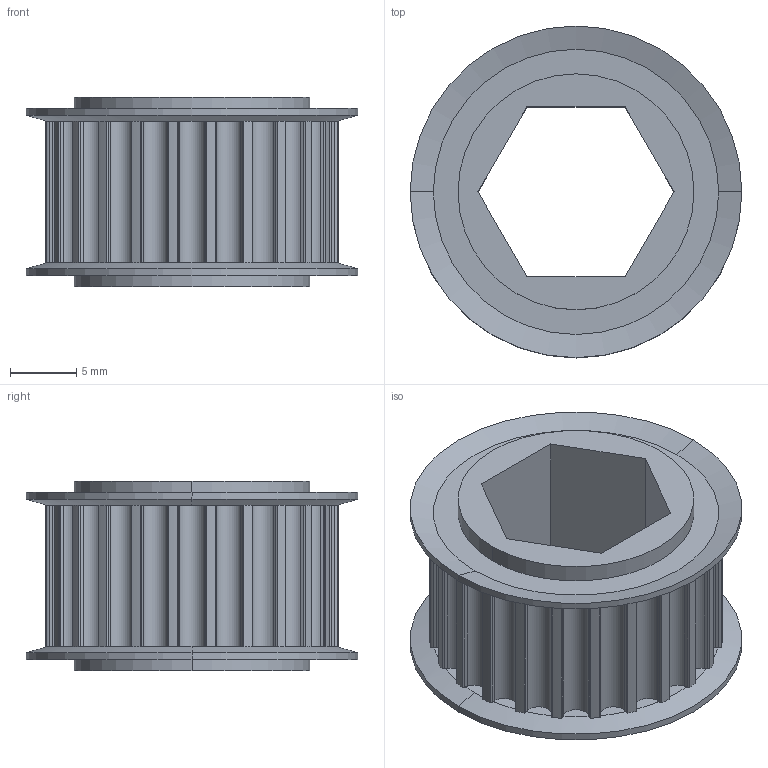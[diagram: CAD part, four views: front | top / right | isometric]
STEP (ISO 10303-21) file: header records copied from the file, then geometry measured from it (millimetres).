
FILE_DESCRIPTION (( 'STEP AP214' ), '1' );
FILE_NAME ('WCP-0064 Rev1.STEP', '2017-01-03T04:58:57', ( '' ), ( '' ), 'SwSTEP 2.0', 'SolidWorks 2016', '' );
FILE_SCHEMA (( 'AUTOMOTIVE_DESIGN' ));
Length unit declared in the file: inch
Products named in the file (1): WCP-0064 Rev1
Bounding box: 25 x 25 x 14.29 mm (x, y, z)
Volume: 2752.8 mm3; surface area: 2946.7 mm2
Topology: 1 solids, 1 shells, 279 faces, 721 edges, 446 vertices
Faces by surface type: cylinder 165, plane 106, cone 8
Entity records: 8757 total; most frequent: DIRECTION 1811, CARTESIAN_POINT 1447, ORIENTED_EDGE 1442, AXIS2_PLACEMENT_3D 810, EDGE_CURVE 721, CIRCLE 530, VERTEX_POINT 446, EDGE_LOOP 283
